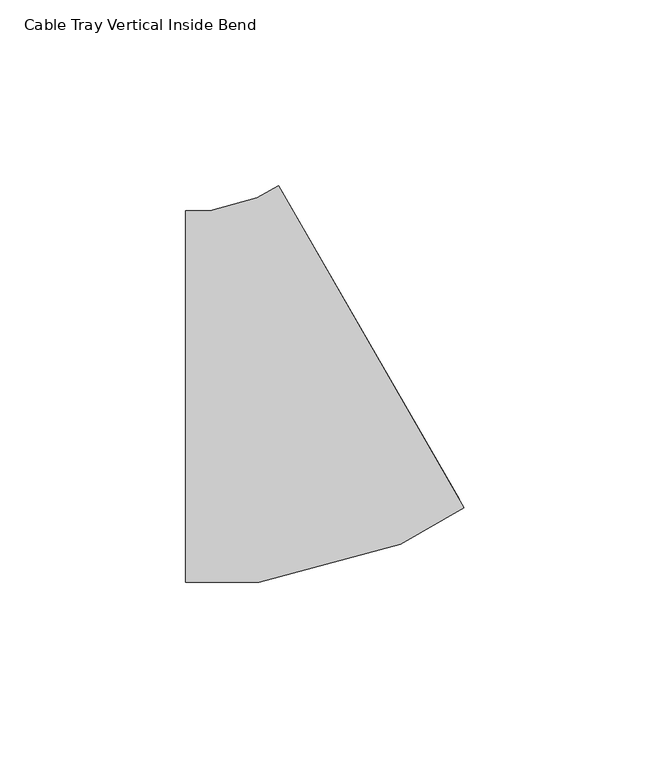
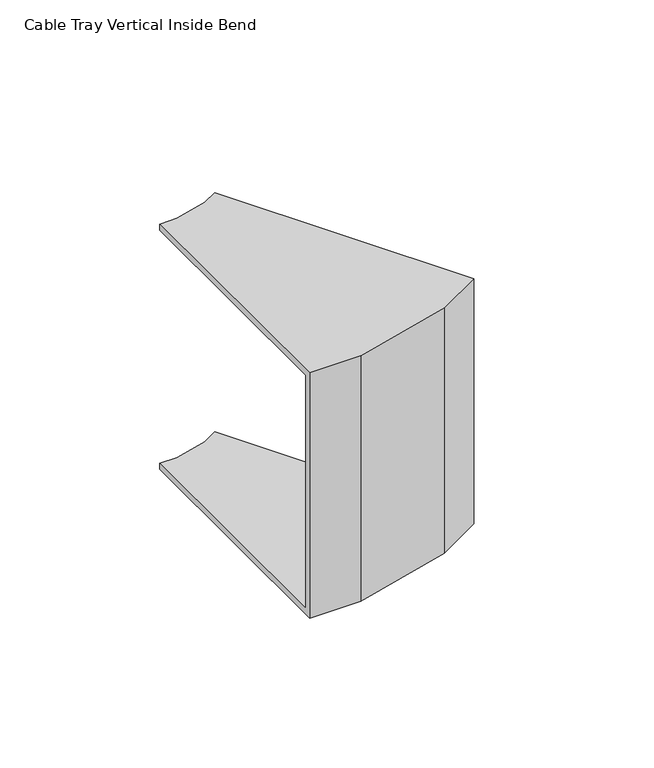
"""IFC4 building model written with IfcOpenShell, lengths in millimetres: cable carrier fitting geometry, Cable Tray Vertical Inside Bend : ELEC_ELV_TKG_N2402."""

from ifc_helpers import new_model, si_unit, origin, place, context, project, spatial, faceted_brep, source, transform, mapped, element, save


def cable_tray_vertical_inside_bend_c3333b5b(model_context):
    return source(origin(), model_context, "Body", "Brep", [
        faceted_brep([(-26.7949363, 50.0, 50.0), (-26.7949363, 50.0, 47.46), (-26.7949363, -47.46, 47.46), (-26.7949363, -47.46, -47.46), (-26.7949363, 50.0, -47.46), (-26.7949363, 50.0, -50.0), (-26.7949363, -50.0, -50.0), (-26.7949363, -50.0, 50.0), (-1.7949225, 56.6987377, 50.0), (48.205105, -29.9037868, 50.0), (48.205105, -29.9037868, -50.0), (-1.7949225, 56.6987377, -50.0), (-1.7949225, 56.6987377, -47.46), (46.9351043, -27.7040827, -47.46), (46.9351043, -27.7040827, 47.46), (-1.7949225, 56.6987377, 47.46), (-20.2123073, 50.0, 50.0), (-20.2123073, 50.0, 47.46), (-7.4956453, 53.4074215, 47.46), (30.1225325, -37.4108326, 47.46), (-7.3814471, -47.46, 47.46), (-7.3814471, -47.46, -47.46), (30.1225325, -37.4108326, -47.46), (-7.4956453, 53.4074215, -47.46), (-20.2123073, 50.0, -47.46), (-20.2123073, 50.0, -50.0), (-7.4956453, 53.4074215, -50.0), (31.1029365, -39.7777356, -50.0), (-7.0470495, -50.0, -50.0), (-7.0470495, -50.0, 50.0), (31.1029365, -39.7777356, 50.0), (-7.4956453, 53.4074215, 50.0)], [[[0, 1, 2, 3, 4, 5, 6, 7]], [[8, 9, 10, 11, 12, 13, 14, 15]], [[1, 0, 16, 17]], [[2, 1, 17, 18, 15, 14, 19, 20]], [[3, 2, 20, 21]], [[4, 3, 21, 22, 13, 12, 23, 24]], [[5, 4, 24, 25]], [[6, 5, 25, 26, 11, 10, 27, 28]], [[7, 6, 28, 29]], [[0, 7, 29, 30, 9, 8, 31, 16]], [[17, 16, 31, 18]], [[21, 20, 19, 22]], [[25, 24, 23, 26]], [[29, 28, 27, 30]], [[18, 31, 8, 15]], [[22, 19, 14, 13]], [[26, 23, 12, 11]], [[30, 27, 10, 9]]]),
    ])


if __name__ == "__main__":
    model = new_model("IFC4")
    model_context = context("Model", 3, world=origin())
    ifc_project = project(units=[si_unit("LENGTHUNIT", "METRE", prefix="MILLI")], contexts=[model_context])
    site = spatial("IfcSite", under=ifc_project)
    building = spatial("IfcBuilding", under=site)
    placement = place(None, origin())
    cable_tray_vertical_inside_bend_shape = cable_tray_vertical_inside_bend_c3333b5b(model_context)
    element("IfcCableCarrierFitting", 1, ObjectType="Cable Tray Vertical Inside Bend : ELEC_ELV_TKG_N2402", at=placement, inside=building, context=model_context, shape_type="MappedRepresentation", body=[
        mapped(cable_tray_vertical_inside_bend_shape, transform((0.0, 0.0, 0.0), x_axis=(1.0, 0.0, 0.0), y_axis=(0.0, 1.0, 0.0), z_axis=(0.0, 0.0, 1.0))),
    ])
    save(model, "model.ifc")
